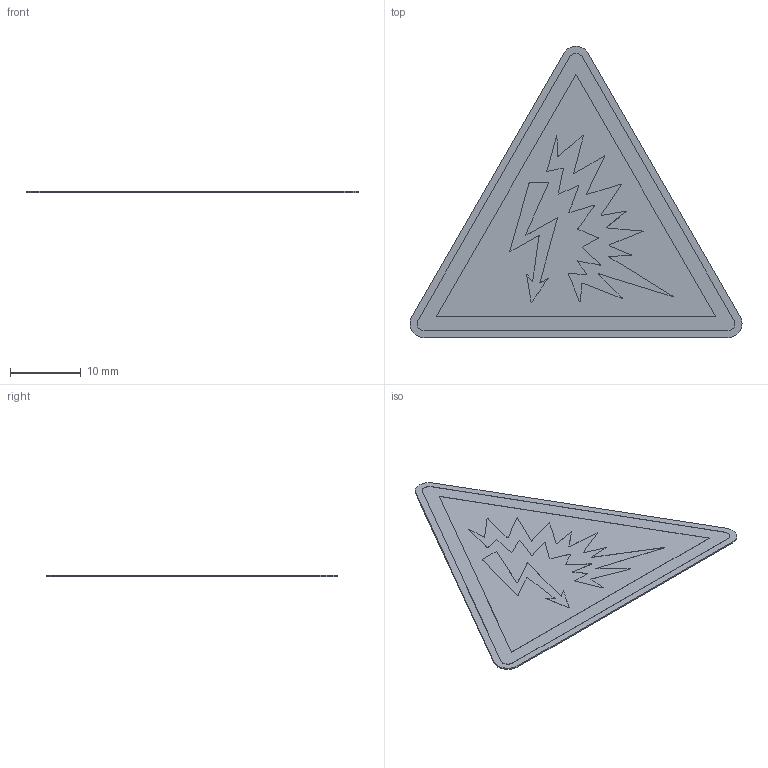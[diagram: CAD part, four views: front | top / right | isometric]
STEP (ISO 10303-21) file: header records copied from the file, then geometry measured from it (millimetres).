
FILE_DESCRIPTION (( 'STEP AP214' ), '1' );
FILE_NAME ('W042_Warnung vor Lichtbogen.STEP', '2022-03-03T14:12:30', ( '' ), ( '' ), 'SwSTEP 2.0', 'SolidWorks 2021', '' );
FILE_SCHEMA (( 'AUTOMOTIVE_DESIGN' ));
Length unit declared in the file: millimetre
Products named in the file (1): W042_Warnung vor Lichtbogen
Bounding box: 47.07 x 41.3 x 0.22 mm (x, y, z)
Volume: 221.5 mm3; surface area: 2184.1 mm2
Topology: 1 solids, 1 shells, 267 faces, 784 edges, 523 vertices
Faces by surface type: plane 225, cylinder 42
Entity records: 11642 total; most frequent: CARTESIAN_POINT 1575, ORIENTED_EDGE 1568, DIRECTION 1404, EDGE_CURVE 784, VECTOR 700, LINE 700, VERTEX_POINT 523, AXIS2_PLACEMENT_3D 352
